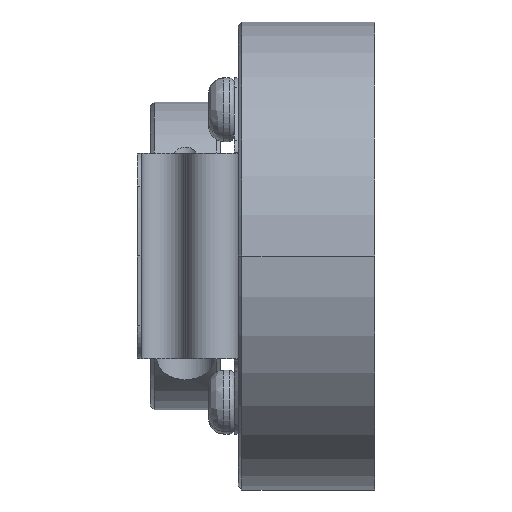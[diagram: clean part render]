
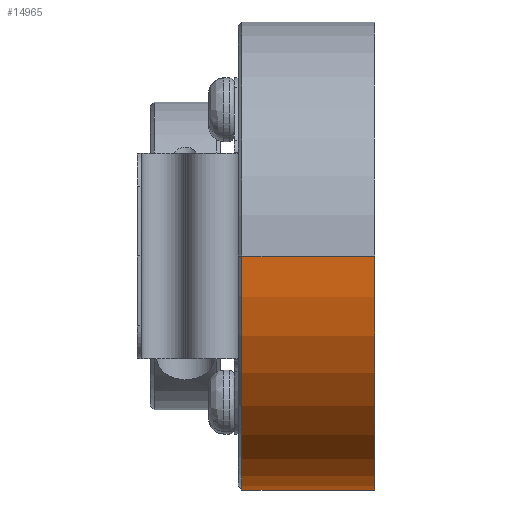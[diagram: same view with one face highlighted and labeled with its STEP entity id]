
A CAD part, front view. The second image highlights one B-rep face of the part: STEP entity #14965.
In plain terms, the highlighted cylindrical face has radius 18.25 mm (diameter 36.5 mm), a partial arc.
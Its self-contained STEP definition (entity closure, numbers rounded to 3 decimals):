
#2475 = DIRECTION ( 'NONE',  ( -1., 0., 0. ) ) ;
#2575 = DIRECTION ( 'NONE',  ( 0., 1., 0. ) ) ;
#2749 = AXIS2_PLACEMENT_3D ( 'NONE', #25970, #19175, #20759 ) ;
#3282 = CARTESIAN_POINT ( 'NONE',  ( -11.65, -18.25, 0. ) ) ;
#3893 = LINE ( 'NONE', #19018, #8508 ) ;
#4115 = VERTEX_POINT ( 'NONE', #3282 ) ;
#4260 = CARTESIAN_POINT ( 'NONE',  ( -1.3, -18.25, 0. ) ) ;
#6756 = CARTESIAN_POINT ( 'NONE',  ( -1.3, 18.25, 0. ) ) ;
#7782 = EDGE_CURVE ( 'NONE', #11727, #4115, #3893, .T. ) ;
#7890 = LINE ( 'NONE', #25074, #18639 ) ;
#8178 = EDGE_CURVE ( 'NONE', #4115, #17554, #29258, .T. ) ;
#8508 = VECTOR ( 'NONE', #23629, 1000. ) ;
#9021 = CARTESIAN_POINT ( 'NONE',  ( -11.65, 18.25, 0. ) ) ;
#10162 = DIRECTION ( 'NONE',  ( 0., 1., 0. ) ) ;
#11727 = VERTEX_POINT ( 'NONE', #4260 ) ;
#11930 = AXIS2_PLACEMENT_3D ( 'NONE', #20953, #2475, #2575 ) ;
#12442 = DIRECTION ( 'NONE',  ( 1., 0., 0. ) ) ;
#13650 = AXIS2_PLACEMENT_3D ( 'NONE', #17283, #12442, #10162 ) ;
#14027 = ORIENTED_EDGE ( 'NONE', *, *, #8178, .T. ) ;
#14616 = ORIENTED_EDGE ( 'NONE', *, *, #14897, .T. ) ;
#14759 = EDGE_CURVE ( 'NONE', #19272, #17554, #7890, .T. ) ;
#14897 = EDGE_CURVE ( 'NONE', #19272, #11727, #27906, .T. ) ;
#14965 = ADVANCED_FACE ( 'NONE', ( #15731 ), #20029, .T. ) ;
#15731 = FACE_OUTER_BOUND ( 'NONE', #19738, .T. ) ;
#17283 = CARTESIAN_POINT ( 'NONE',  ( -11.65, 0., 0. ) ) ;
#17554 = VERTEX_POINT ( 'NONE', #9021 ) ;
#18639 = VECTOR ( 'NONE', #20470, 1000. ) ;
#18899 = ORIENTED_EDGE ( 'NONE', *, *, #14759, .F. ) ;
#19018 = CARTESIAN_POINT ( 'NONE',  ( -1000., -18.25, 0. ) ) ;
#19175 = DIRECTION ( 'NONE',  ( -1., 0., 0. ) ) ;
#19272 = VERTEX_POINT ( 'NONE', #6756 ) ;
#19738 = EDGE_LOOP ( 'NONE', ( #14616, #28709, #14027, #18899 ) ) ;
#20029 = CYLINDRICAL_SURFACE ( 'NONE', #11930, 18.25 ) ;
#20470 = DIRECTION ( 'NONE',  ( -1., 0., 0. ) ) ;
#20759 = DIRECTION ( 'NONE',  ( 0., 1., 0. ) ) ;
#20953 = CARTESIAN_POINT ( 'NONE',  ( -1000., 0., 0. ) ) ;
#23629 = DIRECTION ( 'NONE',  ( -1., 0., 0. ) ) ;
#25074 = CARTESIAN_POINT ( 'NONE',  ( -1000., 18.25, 0. ) ) ;
#25970 = CARTESIAN_POINT ( 'NONE',  ( -1.3, 0., 0. ) ) ;
#27906 = CIRCLE ( 'NONE', #2749, 18.25 ) ;
#28709 = ORIENTED_EDGE ( 'NONE', *, *, #7782, .T. ) ;
#29258 = CIRCLE ( 'NONE', #13650, 18.25 ) ;
